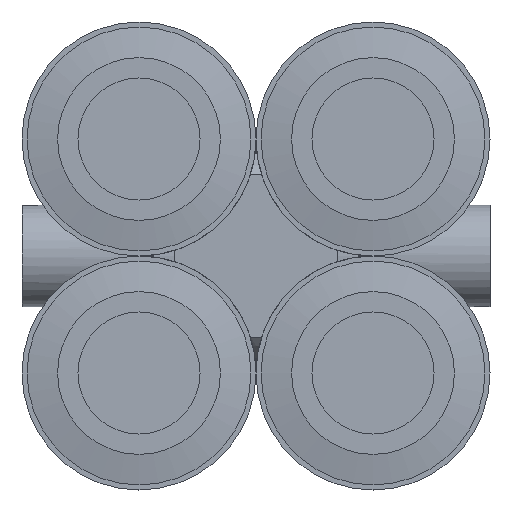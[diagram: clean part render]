
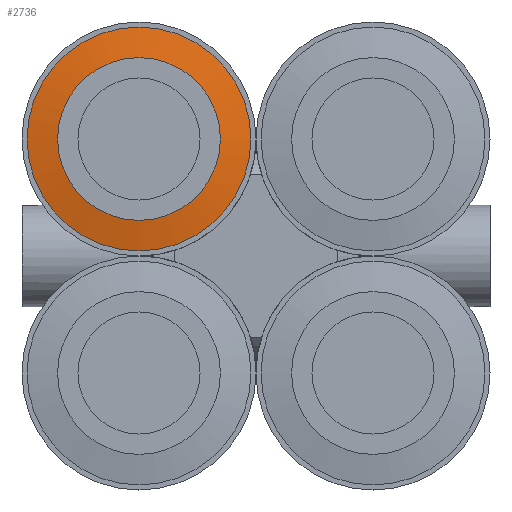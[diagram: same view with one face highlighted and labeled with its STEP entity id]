
A CAD part, front view. The second image highlights one B-rep face of the part: STEP entity #2736.
In plain terms, the highlighted free-form (B-spline) face has degree [1, 2] with [2, 9] control points.
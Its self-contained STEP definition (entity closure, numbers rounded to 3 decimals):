
#2681=CARTESIAN_POINT('',(-11.25,-14.736,5.75));
#2682=VERTEX_POINT('',#2681);
#2683=CARTESIAN_POINT('',(-5.75,-14.736,5.75));
#2684=DIRECTION('',(0.0,1.0,0.0));
#2685=DIRECTION('',(-1.0,0.0,0.0));
#2686=AXIS2_PLACEMENT_3D('',#2683,#2684,#2685);
#2687=CIRCLE('',#2686,5.5);
#2688=EDGE_CURVE('',#2682,#2682,#2687,.T.);
#2696=CARTESIAN_POINT('',(-0.25,-14.736,5.75));
#2697=CARTESIAN_POINT('',(-1.75,-15.,5.75));
#2698=CARTESIAN_POINT('',(-0.25,-14.736,0.25));
#2699=CARTESIAN_POINT('',(-1.75,-15.,1.75));
#2700=CARTESIAN_POINT('',(-5.75,-14.736,0.25));
#2701=CARTESIAN_POINT('',(-5.75,-15.,1.75));
#2702=CARTESIAN_POINT('',(-11.25,-14.736,0.25));
#2703=CARTESIAN_POINT('',(-9.75,-15.,1.75));
#2704=CARTESIAN_POINT('',(-11.25,-14.736,5.75));
#2705=CARTESIAN_POINT('',(-9.75,-15.,5.75));
#2706=CARTESIAN_POINT('',(-11.25,-14.736,11.25));
#2707=CARTESIAN_POINT('',(-9.75,-15.,9.75));
#2708=CARTESIAN_POINT('',(-5.75,-14.736,11.25));
#2709=CARTESIAN_POINT('',(-5.75,-15.,9.75));
#2710=CARTESIAN_POINT('',(-0.25,-14.736,11.25));
#2711=CARTESIAN_POINT('',(-1.75,-15.,9.75));
#2712=CARTESIAN_POINT('',(-0.25,-14.736,5.75));
#2713=CARTESIAN_POINT('',(-1.75,-15.,5.75));
#2721=(BOUNDED_SURFACE()B_SPLINE_SURFACE(1,2,((#2696,#2698,#2700,#2702,#2704,#2706,#2708,#2710,#2712),(#2697,#2699,#2701,#2703,#2705,#2707,#2709,#2711,#2713)),.UNSPECIFIED.,.F.,.T.,.U.)B_SPLINE_SURFACE_WITH_KNOTS((2,2),(3,2,2,2,3),(-0.16,0.16),(0.0,7.461,14.923,22.384,29.845),.UNSPECIFIED.)GEOMETRIC_REPRESENTATION_ITEM()RATIONAL_B_SPLINE_SURFACE(((1.0,0.707,1.0,0.707,1.0,0.707,1.0,0.707,1.0),(1.0,0.707,1.0,0.707,1.0,0.707,1.0,0.707,1.0)))REPRESENTATION_ITEM('')SURFACE());
#2722=CARTESIAN_POINT('',(-9.75,-15.0,5.75));
#2723=VERTEX_POINT('',#2722);
#2724=CARTESIAN_POINT('',(-5.75,-15.0,5.75));
#2725=DIRECTION('',(0.0,1.0,0.0));
#2726=DIRECTION('',(-1.0,0.0,0.0));
#2727=AXIS2_PLACEMENT_3D('',#2724,#2725,#2726);
#2728=CIRCLE('',#2727,4.);
#2729=EDGE_CURVE('',#2723,#2723,#2728,.T.);
#2730=ORIENTED_EDGE('',*,*,#2729,.T.);
#2731=EDGE_LOOP('',(#2730));
#2732=FACE_OUTER_BOUND('',#2731,.T.);
#2733=ORIENTED_EDGE('',*,*,#2688,.F.);
#2734=EDGE_LOOP('',(#2733));
#2735=FACE_BOUND('',#2734,.T.);
#2736=ADVANCED_FACE('',(#2732,#2735),#2721,.T.);
